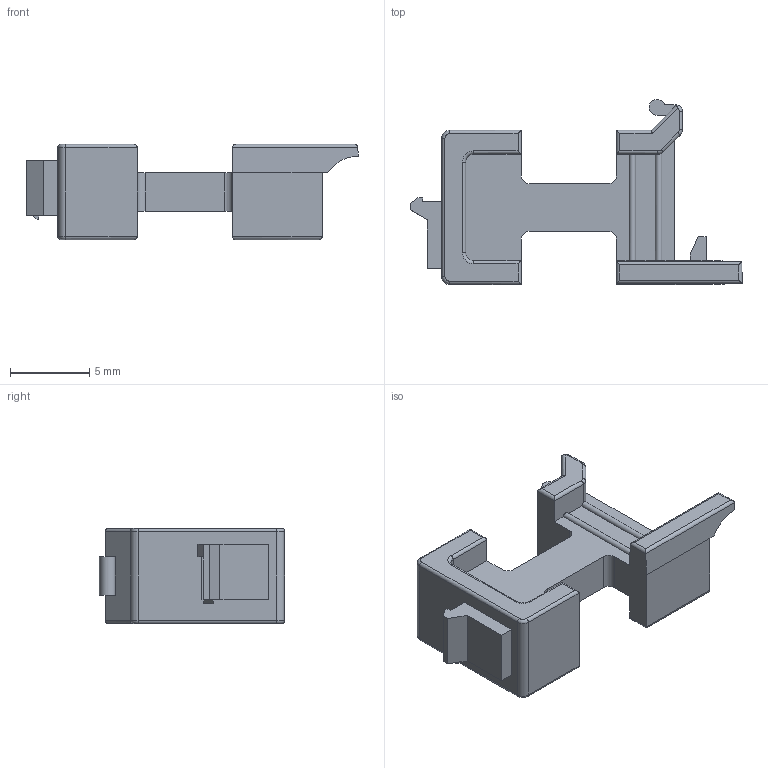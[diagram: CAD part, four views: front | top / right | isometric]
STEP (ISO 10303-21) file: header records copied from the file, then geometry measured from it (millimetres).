
FILE_DESCRIPTION(/* description */ (''),/* implementation_level */ '2;1');
FILE_NAME(/* name */ 'C:\Desktop\EF00901.stp',/* time_stamp */ '2015-04-24T11:33:21+02:00',/* author */ ('marco'),/* organization */ (''),/* preprocessor_version */ 'ST-DEVELOPER v15.6',/* originating_system */ 'Autodesk Inventor 2015',/* authorisation */ '');
FILE_SCHEMA (('AUTOMOTIVE_DESIGN { 1 0 10303 214 3 1 1 }'));
Length unit declared in the file: millimetre
Products named in the file (1): EF00901
Bounding box: 20.9 x 11.65 x 6 mm (x, y, z)
Volume: 428.9 mm3; surface area: 644.9 mm2
Topology: 1 solids, 1 shells, 137 faces, 351 edges, 217 vertices
Faces by surface type: plane 67, cylinder 56, torus 12, bspline 2
Entity records: 4177 total; most frequent: CARTESIAN_POINT 770, DIRECTION 727, ORIENTED_EDGE 702, EDGE_CURVE 351, AXIS2_PLACEMENT_3D 244, LINE 239, VECTOR 239, VERTEX_POINT 217
